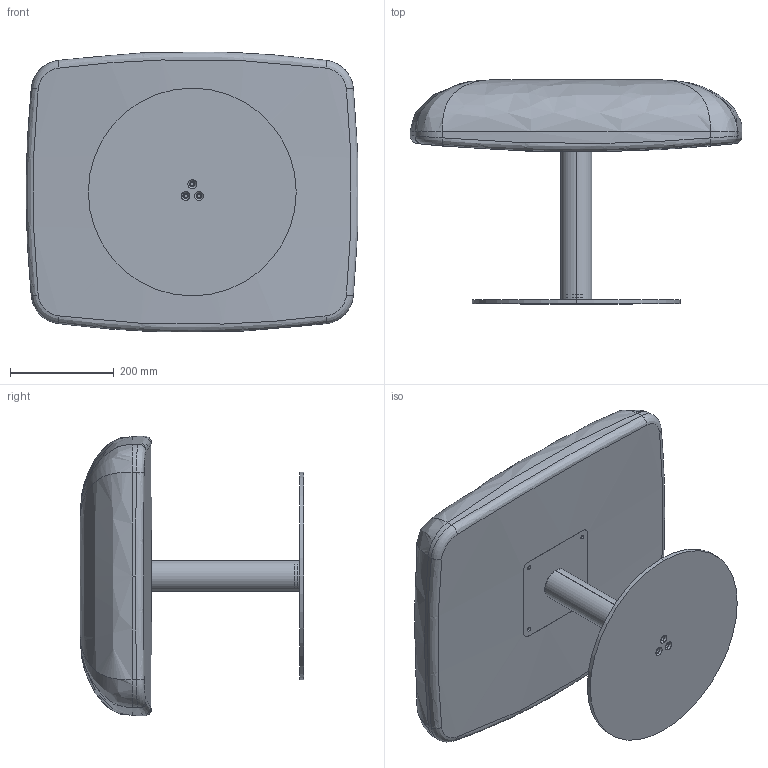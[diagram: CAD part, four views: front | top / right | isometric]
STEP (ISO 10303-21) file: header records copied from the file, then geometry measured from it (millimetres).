
FILE_DESCRIPTION (( 'STEP AP214' ), '1' );
FILE_NAME ('FG52750-00-00.STEP', '2023-06-27T07:06:44', ( '' ), ( '' ), 'SwSTEP 2.0', 'SolidWorks 2020', '' );
FILE_SCHEMA (( 'AUTOMOTIVE_DESIGN' ));
Length unit declared in the file: millimetre
Products named in the file (4): FG52750-00-00; BS52750-01-00; PA52750-01-00; IMBOTTITURA^FG52750-00-00
Assembly tree (3 placements, depth 2):
  FG52750-00-00
    BS52750-01-00
    PA52750-01-00
    IMBOTTITURA^FG52750-00-00
Bounding box: 638.89 x 430.68 x 538.26 mm (x, y, z)
Volume: 37914474.9 mm3; surface area: 1244249.6 mm2
Topology: 5 solids, 5 shells, 88 faces, 209 edges, 128 vertices
Faces by surface type: cylinder 48, plane 18, bspline 16, cone 6
Entity records: 5122 total; most frequent: CARTESIAN_POINT 2902, ORIENTED_EDGE 410, DIRECTION 407, EDGE_CURVE 205, AXIS2_PLACEMENT_3D 166, VERTEX_POINT 128, EDGE_LOOP 113, CIRCLE 88
